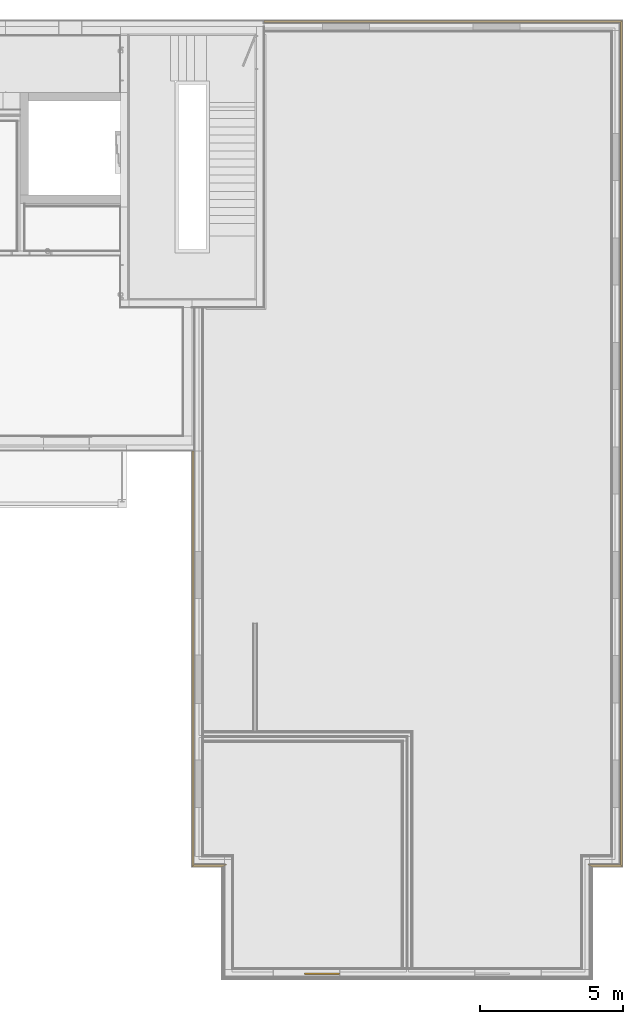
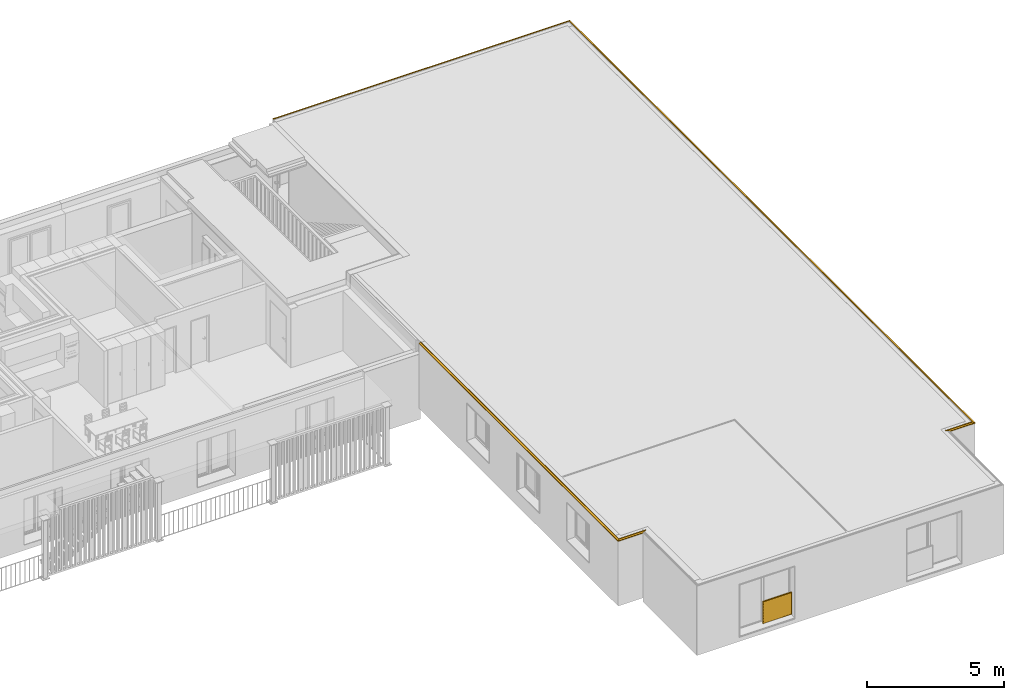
# One storey, part 21 of 34: 5 curtain walls, 1 railing.
"""IFC4 building model written with IfcOpenShell, lengths in millimetres."""

from ifc_helpers import new_model, entity, si_unit, converted_unit, derived_unit, direction, frame, origin_with_axes, place, context, subcontext, project, spatial, polygons, material, constituent, constituent_set, type_object, element, save


model = new_model("IFC4")

# Units and contexts
model_context = context("Model", 3, precision=0.01, world=origin_with_axes(), true_north=direction((0.0, 1.0)))
body_context = subcontext(model_context, "Body", "Model", "MODEL_VIEW")
ifc_project = project(units=[si_unit("LENGTHUNIT", "METRE", prefix="MILLI"), si_unit("AREAUNIT", "SQUARE_METRE"), si_unit("VOLUMEUNIT", "CUBIC_METRE"), converted_unit("PLANEANGLEUNIT", "DEGREE", entity("IfcPlaneAngleMeasure", 0.0174532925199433), si_unit("PLANEANGLEUNIT", "RADIAN"), dimensions=[0, 0, 0, 0, 0, 0, 0]), converted_unit("TIMEUNIT", "Year", entity("IfcTimeMeasure", 31557600.0), si_unit("TIMEUNIT", "SECOND"), dimensions=[0, 0, 1, 0, 0, 0, 0]), si_unit("MASSUNIT", "GRAM", prefix="KILO"), si_unit("THERMODYNAMICTEMPERATUREUNIT", "DEGREE_CELSIUS"), si_unit("LUMINOUSINTENSITYUNIT", "LUMEN"), si_unit("ENERGYUNIT", "JOULE", prefix="MEGA"), derived_unit("THERMALCONDUCTANCEUNIT", [(si_unit("POWERUNIT", "WATT"), 1), (si_unit("LENGTHUNIT", "METRE"), -1), (si_unit("THERMODYNAMICTEMPERATUREUNIT", "KELVIN"), -1)]), derived_unit("SPECIFICHEATCAPACITYUNIT", [(si_unit("ENERGYUNIT", "JOULE"), 1), (si_unit("MASSUNIT", "GRAM", prefix="KILO"), -1), (si_unit("THERMODYNAMICTEMPERATUREUNIT", "KELVIN"), -1)]), derived_unit("MASSDENSITYUNIT", [(si_unit("MASSUNIT", "GRAM", prefix="KILO"), 1), (si_unit("VOLUMEUNIT", "CUBIC_METRE"), -1)])], contexts=[model_context])

# Site, building, storey
site_placement = place(None, origin_with_axes())
site = spatial("IfcSite", under=ifc_project, at=site_placement, Name="Gelände", CompositionType="ELEMENT")
building_placement = place(site_placement, origin_with_axes())
building = spatial("IfcBuilding", under=site, at=building_placement, Name="Gebäude", CompositionType="ELEMENT")
storey_placement = place(building_placement, frame((0.0, 0.0, 2900.0), z_axis=(0.0, 0.0, 1.0), x_axis=(1.0, 0.0, 0.0)))
storey = spatial("IfcBuildingStorey", under=building, at=storey_placement, Name="1.OG", CompositionType="ELEMENT", Elevation=2900.0)

# Curtain walls
ifc_material_1 = material(Name="Stahl")
ifc_constituent_1 = constituent(ifc_material_1, Name="Stahl")
ifc_constituent_set_1 = constituent_set(constituents=[ifc_constituent_1], Name="Fassadentrennblech 01")
curtain_wall_type = type_object("IfcCurtainWallType", Name="Fassadentrennblech 01 80 x 71", PredefinedType="NOTDEFINED")
curtain_wall_1_placement = place(storey_placement, frame((32857.99744391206, 37876.59726257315, 3400.0), z_axis=(0.0, 0.0, 1.0), x_axis=(-2.519221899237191e-07, 0.9999999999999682, 0.0)))
element("IfcCurtainWall", 1, at=curtain_wall_1_placement, inside=storey, type_object=curtain_wall_type, material=ifc_constituent_set_1, Name="Unterzug-032", PredefinedType="NOTDEFINED", context=body_context, shape_type="Tessellation", body=[
    polygons([(0.0, 0.0, 9.685927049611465), (0.0, 12428.99997883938, 9.685927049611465), (77.40470302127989, 12428.99997883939, 2.044753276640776), (77.40470302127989, -77.40472252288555, 2.044753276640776), (0.0, 0.0, 42.69563025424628), (0.0, 12428.99997883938, 42.69563025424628), (2.700001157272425, 12428.99997883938, 42.69563025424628), (2.700001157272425, 12428.99997883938, 12.52688023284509), (80.10479082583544, 12428.99997883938, 4.571509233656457), (80.10474928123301, 12428.99997883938, -27.95524672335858), (77.40470302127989, 12428.99997883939, -27.95524672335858), (77.40470302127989, -77.40472252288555, -27.95524672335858), (80.1047492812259, -80.10476946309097, -27.95524672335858), (80.10479082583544, -80.10481100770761, 4.571509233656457), (2.700001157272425, -2.700001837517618, 12.52688023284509), (2.700001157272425, -2.700001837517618, 42.69563025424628)], [[[1, 2, 3, 4]], [[5, 6, 2, 1]], [[3, 2, 6, 7, 8, 9, 10, 11]], [[4, 3, 11, 12]], [[5, 1, 4, 12, 13, 14, 15, 16]], [[16, 7, 6, 5]], [[15, 8, 7, 16]], [[14, 9, 8, 15]], [[13, 10, 9, 14]], [[12, 11, 10, 13]]], closed=True),
])
ifc_constituent_2 = constituent(ifc_material_1, Name="Stahl")
ifc_constituent_set_2 = constituent_set(constituents=[ifc_constituent_2], Name="Fassadentrennblech 01")
curtain_wall_2_placement = place(storey_placement, frame((32857.9974432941, 8518.597281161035, 3400.0), z_axis=(0.0, 0.0, 1.0), x_axis=(0.0, 1.0, 0.0)))
element("IfcCurtainWall", 2, at=curtain_wall_2_placement, inside=storey, type_object=curtain_wall_type, material=ifc_constituent_set_2, Name="Unterzug-032", PredefinedType="NOTDEFINED", context=body_context, shape_type="Tessellation", body=[
    polygons([(0.0, 0.0, 42.69563025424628), (0.0, 1142.557073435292, 42.69563025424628), (-2.700001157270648, 1136.745397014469, 42.69563025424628), (-2.700001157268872, -2.700001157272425, 42.69563025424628), (0.0, 0.0, 9.685927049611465), (0.0, 1142.557073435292, 9.685927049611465), (-77.40470302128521, 975.9456309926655, 2.044753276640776), (-77.40470302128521, 975.9456309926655, -27.95524672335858), (-80.10474928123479, 970.1338574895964, -27.95524672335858), (-80.10479082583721, 970.1337680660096, 4.571509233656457), (-2.700001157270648, 1136.745397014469, 12.52688023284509), (-2.700001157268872, -2.700001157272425, 12.52688023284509), (-80.10479082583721, -80.10479082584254, 4.571509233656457), (-80.10474928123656, -80.10474928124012, -27.95524672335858), (-77.40470302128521, -77.4047030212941, -27.95524672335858), (-77.40470302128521, -77.4047030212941, 2.044753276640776)], [[[1, 2, 3, 4]], [[5, 6, 2, 1]], [[3, 2, 6, 7, 8, 9, 10, 11]], [[4, 3, 11, 12]], [[5, 1, 4, 12, 13, 14, 15, 16]], [[16, 7, 6, 5]], [[15, 8, 7, 16]], [[14, 9, 8, 15]], [[13, 10, 9, 14]], [[12, 11, 10, 13]]], closed=True),
])
ifc_constituent_3 = constituent(ifc_material_1, Name="Stahl")
ifc_constituent_set_3 = constituent_set(constituents=[ifc_constituent_3], Name="Fassadentrennblech 01")
curtain_wall_3_placement = place(storey_placement, frame((32857.99744391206, 37876.59726257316, 3400.0), z_axis=(0.0, 0.0, 1.0), x_axis=(-1.0, 0.0, 0.0)))
element("IfcCurtainWall", 3, at=curtain_wall_3_placement, inside=storey, type_object=curtain_wall_type, material=ifc_constituent_set_3, Name="Unterzug-032", PredefinedType="NOTDEFINED", context=body_context, shape_type="Tessellation", body=[
    polygons([(0.0, 0.0, 42.69563025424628), (0.0, 29357.99998141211, 42.69563025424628), (-2.700001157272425, 29360.69998256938, 42.69563025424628), (-2.700001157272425, -2.700001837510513, 42.69563025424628), (0.0, 0.0, 9.685927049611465), (0.0, 29357.99998141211, 9.685927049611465), (-77.40470302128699, 29435.4046844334, 2.044753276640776), (-77.40470302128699, 29435.4046844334, -27.95524672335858), (-80.10474928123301, 29438.10473069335, -27.95524672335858), (-80.10479082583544, 29438.10477223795, 4.571509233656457), (-2.700001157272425, 29360.69998256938, 12.52688023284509), (-2.700001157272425, -2.700001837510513, 12.52688023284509), (-80.10479082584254, -80.1048110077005, 4.571509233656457), (-80.10474928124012, -80.10476946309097, -27.95524672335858), (-77.40470302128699, -77.40472252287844, -27.95524672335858), (-77.40470302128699, -77.40472252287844, 2.044753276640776)], [[[1, 2, 3, 4]], [[5, 6, 2, 1]], [[3, 2, 6, 7, 8, 9, 10, 11]], [[4, 3, 11, 12]], [[5, 1, 4, 12, 13, 14, 15, 16]], [[16, 7, 6, 5]], [[15, 8, 7, 16]], [[14, 9, 8, 15]], [[13, 10, 9, 14]], [[12, 11, 10, 13]]], closed=True),
])
ifc_constituent_4 = constituent(ifc_material_1, Name="Stahl")
ifc_constituent_set_4 = constituent_set(constituents=[ifc_constituent_4], Name="Fassadentrennblech 01")
curtain_wall_4_placement = place(storey_placement, frame((17999.99744477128, 8518.597281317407, 3400.0), z_axis=(0.0, 0.0, 1.0), x_axis=(0.0, -1.0, 0.0)))
element("IfcCurtainWall", 4, at=curtain_wall_4_placement, inside=storey, type_object=curtain_wall_type, material=ifc_constituent_set_4, Name="Unterzug-032", PredefinedType="NOTDEFINED", context=body_context, shape_type="Tessellation", body=[
    polygons([(0.0, 0.0, 9.685927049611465), (0.0, 1142.557073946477, 9.685927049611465), (77.40470302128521, 975.945631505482, 2.044753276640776), (77.40470302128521, -77.40470302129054, 2.044753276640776), (0.0, 0.0, 42.69563025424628), (0.0, 1142.557073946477, 42.69563025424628), (2.700001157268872, 1136.745397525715, 42.69563025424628), (2.700001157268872, 1136.745397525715, 12.52688023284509), (80.10479082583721, 970.1337685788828, 4.571509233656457), (80.10474928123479, 970.1338580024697, -27.95524672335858), (77.40470302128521, 975.945631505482, -27.95524672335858), (77.40470302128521, -77.40470302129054, -27.95524672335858), (80.10474928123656, -80.10474928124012, -27.95524672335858), (80.10479082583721, -80.10479082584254, 4.571509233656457), (2.700001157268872, -2.700001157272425, 12.52688023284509), (2.700001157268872, -2.700001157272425, 42.69563025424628)], [[[1, 2, 3, 4]], [[5, 6, 2, 1]], [[3, 2, 6, 7, 8, 9, 10, 11]], [[4, 3, 11, 12]], [[5, 1, 4, 12, 13, 14, 15, 16]], [[16, 7, 6, 5]], [[15, 8, 7, 16]], [[14, 9, 8, 15]], [[13, 10, 9, 14]], [[12, 11, 10, 13]]], closed=True),
])
ifc_constituent_5 = constituent(ifc_material_1, Name="Stahl")
ifc_constituent_set_5 = constituent_set(constituents=[ifc_constituent_5], Name="Fassadentrennblech 01")
curtain_wall_5_placement = place(storey_placement, frame((17999.99744477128, 22947.48446271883, 3400.0), z_axis=(0.0, 0.0, 1.0), x_axis=(-1.0, 0.0, 0.0)))
element("IfcCurtainWall", 5, at=curtain_wall_5_placement, inside=storey, type_object=curtain_wall_type, material=ifc_constituent_set_5, Name="Unterzug-032", PredefinedType="NOTDEFINED", context=body_context, shape_type="Tessellation", body=[
    polygons([(0.0, 0.0, 9.685927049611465), (0.0, 14428.88718140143, 9.685927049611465), (77.40470302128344, 14506.29188442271, 2.044753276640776), (77.40470302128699, 0.0, 2.044753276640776), (0.0, 0.0, 42.69563025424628), (0.0, 14428.88718140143, 42.69563025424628), (2.700001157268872, 14431.5871825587, 42.69563025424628), (2.700001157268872, 14431.5871825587, 12.52688023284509), (80.10479082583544, 14508.99197222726, 4.571509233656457), (80.10474928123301, 14508.99193068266, -27.95524672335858), (77.40470302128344, 14506.29188442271, -27.95524672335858), (77.40470302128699, 0.0, -27.95524672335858), (80.10474928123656, 0.0, -27.95524672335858), (80.10479082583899, 0.0, 4.571509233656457), (2.700001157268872, 0.0, 12.52688023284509), (2.700001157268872, 0.0, 42.69563025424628)], [[[1, 2, 3, 4]], [[5, 6, 2, 1]], [[3, 2, 6, 7, 8, 9, 10, 11]], [[4, 3, 11, 12]], [[5, 1, 4, 12, 13, 14, 15, 16]], [[16, 7, 6, 5]], [[15, 8, 7, 16]], [[14, 9, 8, 15]], [[13, 10, 9, 14]], [[12, 11, 10, 13]]], closed=True),
])

# Railing
ifc_material_2 = material(Name="Chrom")
ifc_constituent_6 = constituent(ifc_material_2, Name="Chrom 1")
ifc_constituent_7 = constituent(ifc_material_2, Name="Chrom 2")
ifc_constituent_8 = constituent(ifc_material_2, Name="Chrom 3")
ifc_constituent_9 = constituent(ifc_material_2, Name="Chrom 4")
ifc_constituent_10 = constituent(ifc_material_2, Name="Chrom 5")
ifc_constituent_11 = constituent(ifc_material_2, Name="Chrom 6")
ifc_material_3 = material(Name="Glas")
ifc_constituent_12 = constituent(ifc_material_3, Name="Glas 1")
ifc_material_4 = material(Name="Lattenrost vertikal")
ifc_constituent_13 = constituent(ifc_material_4, Name="Lattenrost vertikal")
ifc_constituent_14 = constituent(ifc_material_3, Name="Glas 2")
ifc_constituent_set_6 = constituent_set(constituents=[ifc_constituent_6, ifc_constituent_7, ifc_constituent_8, ifc_constituent_9, ifc_constituent_10, ifc_constituent_11, ifc_constituent_12, ifc_constituent_13, ifc_constituent_14])
railing_type = type_object("IfcRailingType", Name="Geländerart", PredefinedType="NOTDEFINED")
railing_placement = place(storey_placement, frame((20770.66411143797, 4716.157965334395, 599.9999999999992), z_axis=(0.0, 0.0, 1.0), x_axis=(1.0, 0.0, 0.0)))
element("IfcRailing", 6, at=railing_placement, inside=storey, type_object=railing_type, material=ifc_constituent_set_6, Name="Geländer-001", PredefinedType="NOTDEFINED", context=body_context, shape_type="Tessellation", body=[
    polygons([(1098.346563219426, -22.49999999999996, 0.0), (1098.346563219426, 22.49999999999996, 0.0), (1098.346563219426, 22.49999999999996, 985.0000000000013), (1098.346563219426, -22.49999999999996, 985.0000000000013), (1083.346563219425, -22.49999999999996, 0.0), (1083.346563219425, 22.49999999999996, 0.0), (1083.346563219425, 22.49999999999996, 985.0000000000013), (1083.346563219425, -22.49999999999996, 985.0000000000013)], [[[1, 2, 3, 4]], [[1, 5, 6, 2]], [[2, 6, 7, 3]], [[4, 3, 7, 8]], [[5, 1, 4, 8]], [[6, 5, 8, 7]]], closed=True),
    polygons([(1090.846563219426, 22.49999999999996, 1000.000000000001), (1090.846563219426, 22.49999999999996, 985.0000000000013), (1083.346563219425, 22.49999999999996, 985.0000000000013), (1083.346563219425, 22.49999999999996, 1000.000000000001), (1090.846563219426, -22.49999999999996, 1000.000000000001), (1090.846563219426, -22.49999999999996, 985.0000000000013), (1083.346563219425, -22.49999999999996, 985.0000000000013), (1083.346563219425, -22.49999999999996, 1000.000000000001)], [[[1, 2, 3, 4]], [[1, 5, 6, 2]], [[2, 6, 7, 3]], [[4, 3, 7, 8]], [[5, 1, 4, 8]], [[6, 5, 8, 7]]], closed=True),
    polygons([(2297.5, -22.49999999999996, 0.0), (2297.5, 22.49999999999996, 0.0), (2297.5, 22.49999999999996, 985.0000000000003), (2297.5, -22.49999999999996, 985.0000000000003), (2282.499999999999, -22.49999999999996, 0.0), (2282.499999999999, 22.49999999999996, 0.0), (2282.499999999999, 22.49999999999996, 985.0000000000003), (2282.499999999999, -22.49999999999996, 985.0000000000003)], [[[1, 2, 3, 4]], [[1, 5, 6, 2]], [[2, 6, 7, 3]], [[4, 3, 7, 8]], [[5, 1, 4, 8]], [[6, 5, 8, 7]]], closed=True),
    polygons([(2289.999999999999, -22.49999999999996, 1000.0), (2289.999999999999, -22.49999999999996, 985.0000000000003), (2297.5, -22.49999999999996, 985.0000000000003), (2297.5, -22.49999999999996, 1000.0), (2289.999999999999, 22.49999999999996, 1000.0), (2289.999999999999, 22.49999999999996, 985.0000000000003), (2297.5, 22.49999999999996, 985.0000000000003), (2297.5, 22.49999999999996, 1000.0)], [[[1, 2, 3, 4]], [[1, 5, 6, 2]], [[2, 6, 7, 3]], [[4, 3, 7, 8]], [[5, 1, 4, 8]], [[6, 5, 8, 7]]], closed=True),
    polygons([(1090.846563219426, -22.49999999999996, 1000.000000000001), (1090.846563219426, -22.49999999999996, 985.0000000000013), (2289.999999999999, -22.49999999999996, 985.0000000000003), (2289.999999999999, -22.49999999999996, 1000.0), (1090.846563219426, 22.49999999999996, 1000.000000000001), (1090.846563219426, 22.49999999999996, 985.0000000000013), (2289.999999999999, 22.49999999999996, 985.0000000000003), (2289.999999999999, 22.49999999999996, 1000.0)], [[[1, 2, 3, 4]], [[1, 5, 6, 2]], [[2, 6, 7, 3]], [[4, 3, 7, 8]], [[5, 1, 4, 8]], [[6, 5, 8, 7]]], closed=True),
    polygons([(1095.846563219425, -4.999999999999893, 935.0000000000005), (1095.846563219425, 4.999999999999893, 935.0000000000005), (1095.846563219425, 4.999999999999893, 985.0000000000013), (1095.846563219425, -4.999999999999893, 985.0000000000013), (1085.846563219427, -4.999999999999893, 935.0000000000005), (1085.846563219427, 4.999999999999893, 935.0000000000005), (1085.846563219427, 4.999999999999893, 985.0000000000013), (1085.846563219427, -4.999999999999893, 985.0000000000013)], [[[1, 2, 3, 4]], [[1, 5, 6, 2]], [[2, 6, 7, 3]], [[4, 3, 7, 8]], [[5, 1, 4, 8]], [[6, 5, 8, 7]]], closed=True),
    polygons([(1695.42328160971, -4.999999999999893, 935.0000000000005), (1695.42328160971, 4.999999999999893, 935.0000000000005), (1695.42328160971, 4.999999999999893, 985.0000000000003), (1695.42328160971, -4.999999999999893, 985.0000000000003), (1685.423281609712, -4.999999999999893, 935.0000000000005), (1685.423281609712, 4.999999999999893, 935.0000000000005), (1685.423281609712, 4.999999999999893, 985.0000000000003), (1685.423281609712, -4.999999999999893, 985.0000000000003)], [[[1, 2, 3, 4]], [[1, 5, 6, 2]], [[2, 6, 7, 3]], [[4, 3, 7, 8]], [[5, 1, 4, 8]], [[6, 5, 8, 7]]], closed=True),
    polygons([(2294.999999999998, -4.999999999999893, 934.9999999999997), (2294.999999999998, 4.999999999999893, 934.9999999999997), (2294.999999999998, 4.999999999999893, 985.0000000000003), (2294.999999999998, -4.999999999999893, 985.0000000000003), (2285.0, -4.999999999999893, 934.9999999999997), (2285.0, 4.999999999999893, 934.9999999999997), (2285.0, 4.999999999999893, 985.0000000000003), (2285.0, -4.999999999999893, 985.0000000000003)], [[[1, 2, 3, 4]], [[1, 5, 6, 2]], [[2, 6, 7, 3]], [[4, 3, 7, 8]], [[5, 1, 4, 8]], [[6, 5, 8, 7]]], closed=True),
    polygons([(1090.846563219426, -9.999999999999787, 22.50000000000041), (1090.846563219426, -9.999999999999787, 7.500000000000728), (2289.999999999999, -9.999999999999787, 7.500000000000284), (2289.999999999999, -9.999999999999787, 22.49999999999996), (1090.846563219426, 9.999999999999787, 22.50000000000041), (1090.846563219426, 9.999999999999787, 7.500000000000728), (1090.846563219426, -3.250000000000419, 15.7500000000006), (1090.846563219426, -3.250000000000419, 14.25000000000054), (1090.846563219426, 3.250000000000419, 14.25000000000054), (1090.846563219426, 3.250000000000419, 15.7500000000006), (2289.999999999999, 9.999999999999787, 7.500000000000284), (2289.999999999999, 9.999999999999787, 22.49999999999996), (2289.999999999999, -3.250000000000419, 15.75000000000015), (2289.999999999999, 3.250000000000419, 15.75000000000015), (2289.999999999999, 3.250000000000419, 14.2500000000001), (2289.999999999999, -3.250000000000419, 14.2500000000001)], [[[1, 2, 3, 4]], [[1, 5, 6, 2], [7, 8, 9, 10]], [[2, 6, 11, 3]], [[4, 3, 11, 12], [13, 14, 15, 16]], [[5, 1, 4, 12]], [[6, 5, 12, 11]], [[8, 7, 13, 16]], [[9, 8, 16, 15]], [[10, 9, 15, 14]], [[7, 10, 14, 13]]], closed=True),
    polygons([(1685.423281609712, 7.500000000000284, 22.50000000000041), (1095.846563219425, 7.500000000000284, 22.50000000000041), (1095.846563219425, 7.500000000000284, 985.0000000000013), (1685.423281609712, 7.500000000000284, 985.0000000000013), (1095.846563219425, -7.500000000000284, 22.50000000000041), (1685.423281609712, -7.500000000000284, 22.50000000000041), (1095.846563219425, -7.500000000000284, 985.0000000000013), (1685.423281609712, -7.500000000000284, 985.0000000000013)], [[[1, 2, 3, 4]], [[5, 2, 1, 6]], [[7, 3, 2, 5]], [[4, 3, 7, 8]], [[1, 4, 8, 6]], [[7, 5, 6, 8]]], closed=True),
    polygons([(1695.42328160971, -7.500000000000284, 22.49999999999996), (1695.42328160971, 7.500000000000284, 22.49999999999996), (1695.42328160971, 7.500000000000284, 985.0000000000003), (1695.42328160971, -7.500000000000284, 985.0000000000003), (1685.423281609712, -7.500000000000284, 22.49999999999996), (1685.423281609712, 7.500000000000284, 22.49999999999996), (1685.423281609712, 7.500000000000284, 985.0000000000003), (1685.423281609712, -7.500000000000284, 985.0000000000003)], [[[1, 2, 3, 4]], [[1, 5, 6, 2]], [[2, 6, 7, 3]], [[4, 3, 7, 8]], [[5, 1, 4, 8]], [[6, 5, 8, 7]]], closed=True),
    polygons([(2285.0, 7.500000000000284, 22.49999999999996), (1695.423281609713, 7.500000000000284, 22.49999999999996), (1695.423281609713, 7.500000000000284, 985.0000000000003), (2285.0, 7.500000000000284, 985.0000000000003), (1695.423281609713, -7.500000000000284, 22.49999999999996), (2285.0, -7.500000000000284, 22.49999999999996), (1695.423281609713, -7.500000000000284, 985.0000000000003), (2285.0, -7.500000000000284, 985.0000000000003)], [[[1, 2, 3, 4]], [[5, 2, 1, 6]], [[7, 3, 2, 5]], [[4, 3, 7, 8]], [[1, 4, 8, 6]], [[7, 5, 6, 8]]], closed=True),
])

save(model, "model.ifc")
